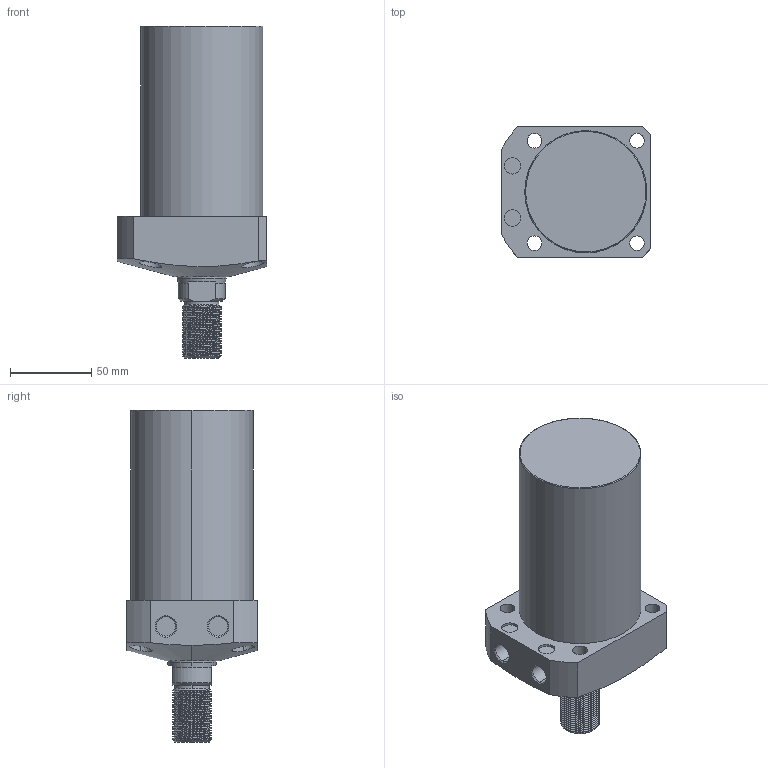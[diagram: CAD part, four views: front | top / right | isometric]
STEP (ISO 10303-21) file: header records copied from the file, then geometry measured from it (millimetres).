
FILE_DESCRIPTION (( 'STEP AP203' ), '1' );
FILE_NAME ('CLL-075CT-080.STEP', '2020-01-08T12:00:09', ( '' ), ( '' ), 'SwSTEP 2.0', 'SolidWorks 2015', '' );
FILE_SCHEMA (( 'CONFIG_CONTROL_DESIGN' ));
Length unit declared in the file: millimetre
Products named in the file (1): CLL-075CT-080
Bounding box: 92 x 80 x 204 mm (x, y, z)
Volume: 758054.4 mm3; surface area: 62450.3 mm2
Topology: 1 solids, 1 shells, 121 faces, 310 edges, 202 vertices
Faces by surface type: cylinder 77, plane 23, cone 17, torus 2, bspline 2
Entity records: 6547 total; most frequent: CARTESIAN_POINT 3757, ORIENTED_EDGE 620, DIRECTION 517, EDGE_CURVE 310, AXIS2_PLACEMENT_3D 204, VERTEX_POINT 202, EDGE_LOOP 140, FACE_OUTER_BOUND 121
